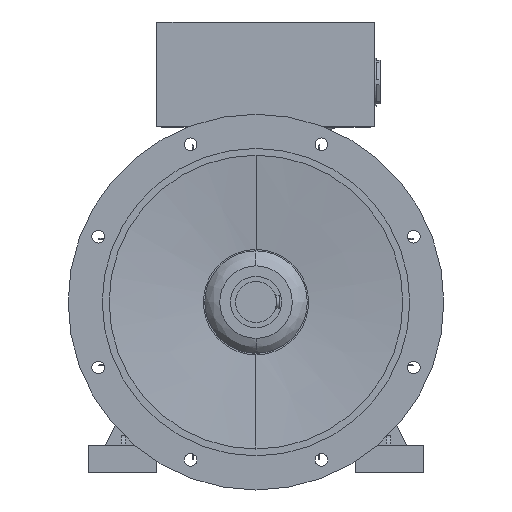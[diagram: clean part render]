
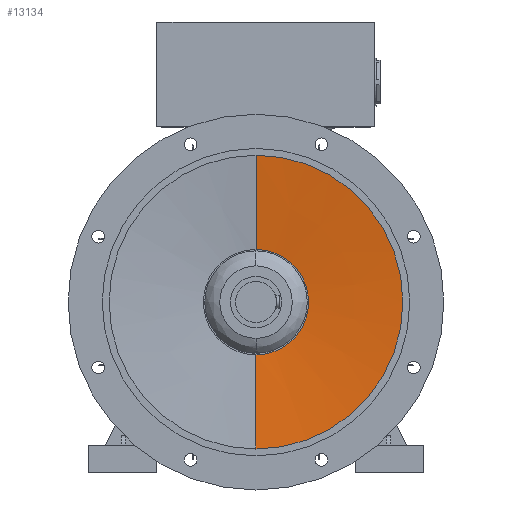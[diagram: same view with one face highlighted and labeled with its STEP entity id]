
A CAD part, left-side view. The second image highlights one B-rep face of the part: STEP entity #13134.
In plain terms, the highlighted conical face has half-angle 83.797 degrees and reference radius 215 mm.
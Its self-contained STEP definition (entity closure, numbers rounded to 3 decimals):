
#1240 = AXIS2_PLACEMENT_3D ( 'NONE', #18297, #18298, #18299 ) ;
#1242 = AXIS2_PLACEMENT_3D ( 'NONE', #18307, #18308, #18309 ) ;
#5789 = CIRCLE ( 'NONE', #1240, 77. ) ;
#5792 = LINE ( 'NONE', #18284, #5794 ) ;
#5793 = LINE ( 'NONE', #18293, #5796 ) ;
#5794 = VECTOR ( 'NONE', #18283, 1000. ) ;
#5796 = VECTOR ( 'NONE', #18295, 1000. ) ;
#5798 = CIRCLE ( 'NONE', #1242, 215. ) ;
#9137 = VERTEX_POINT ( 'NONE', #21972 ) ;
#9170 = VERTEX_POINT ( 'NONE', #22005 ) ;
#9630 = VERTEX_POINT ( 'NONE', #22465 ) ;
#9631 = VERTEX_POINT ( 'NONE', #22466 ) ;
#11680 = ORIENTED_EDGE ( 'NONE', *, *, #14904, .F. ) ;
#11681 = ORIENTED_EDGE ( 'NONE', *, *, #14903, .T. ) ;
#11682 = ORIENTED_EDGE ( 'NONE', *, *, #14908, .T. ) ;
#11683 = ORIENTED_EDGE ( 'NONE', *, *, #14902, .F. ) ;
#13134 = ADVANCED_FACE ( 'NONE', ( #19563 ), #19570, .F. ) ;
#14902 = EDGE_CURVE ( 'NONE', #9631, #9137, #5792, .T. ) ;
#14903 = EDGE_CURVE ( 'NONE', #9630, #9170, #5793, .T. ) ;
#14904 = EDGE_CURVE ( 'NONE', #9630, #9631, #5789, .T. ) ;
#14908 = EDGE_CURVE ( 'NONE', #9170, #9137, #5798, .T. ) ;
#18283 = DIRECTION ( 'NONE',  ( -0.108, 0., 0.994 ) ) ;
#18284 = CARTESIAN_POINT ( 'NONE',  ( -95., 0., 215. ) ) ;
#18293 = CARTESIAN_POINT ( 'NONE',  ( -95., 0., -215. ) ) ;
#18295 = DIRECTION ( 'NONE',  ( -0.108, 0., -0.994 ) ) ;
#18297 = CARTESIAN_POINT ( 'NONE',  ( -80., 0., 0. ) ) ;
#18298 = DIRECTION ( 'NONE',  ( -1., 0., 0. ) ) ;
#18299 = DIRECTION ( 'NONE',  ( 0., 0., 1. ) ) ;
#18307 = CARTESIAN_POINT ( 'NONE',  ( -95., 0., 0. ) ) ;
#18308 = DIRECTION ( 'NONE',  ( -1., 0., 0. ) ) ;
#18309 = DIRECTION ( 'NONE',  ( 0., 0., 1. ) ) ;
#19563 = FACE_OUTER_BOUND ( 'NONE', #20247, .T. ) ;
#19570 = CONICAL_SURFACE ( 'NONE', #24178, 215., 1.463 ) ;
#20247 = EDGE_LOOP ( 'NONE', ( #11680, #11681, #11682, #11683 ) ) ;
#21972 = CARTESIAN_POINT ( 'NONE',  ( -95., 0., 215. ) ) ;
#22005 = CARTESIAN_POINT ( 'NONE',  ( -95., 0., -215. ) ) ;
#22465 = CARTESIAN_POINT ( 'NONE',  ( -80., 0., -77. ) ) ;
#22466 = CARTESIAN_POINT ( 'NONE',  ( -80., 0., 77. ) ) ;
#23306 = DIRECTION ( 'NONE',  ( -1., 0., 0. ) ) ;
#23308 = DIRECTION ( 'NONE',  ( 0., 0., 1. ) ) ;
#23311 = CARTESIAN_POINT ( 'NONE',  ( -95., 0., 0. ) ) ;
#24178 = AXIS2_PLACEMENT_3D ( 'NONE', #23311, #23306, #23308 ) ;
